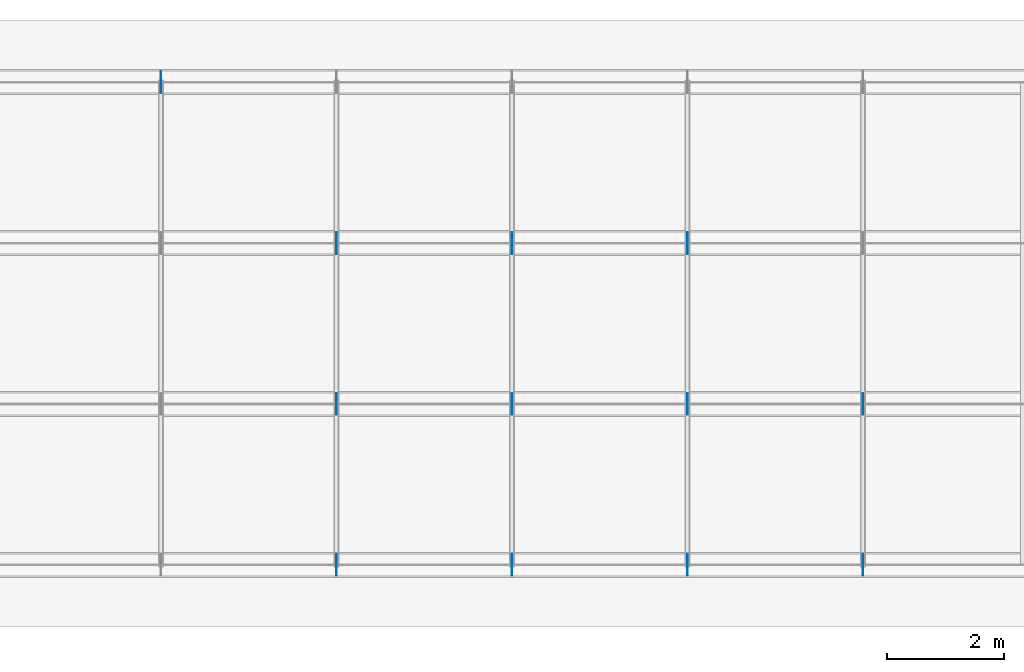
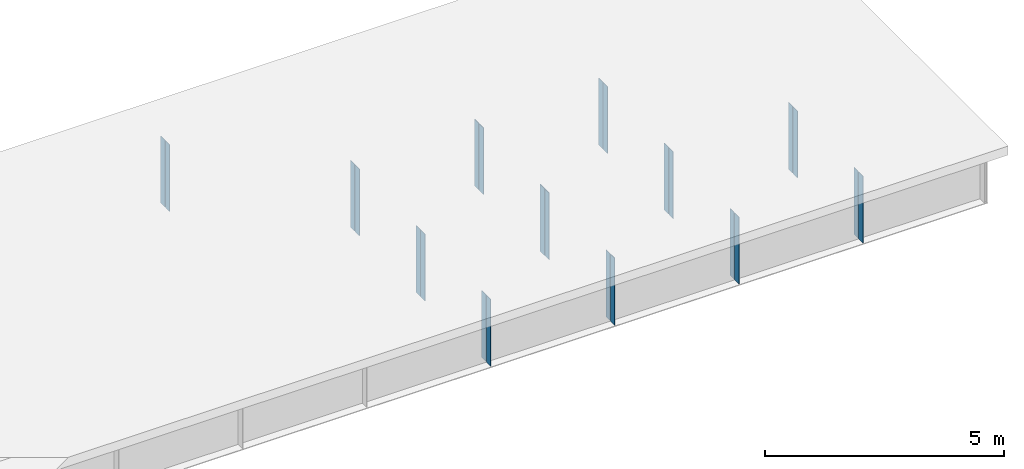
# One storey, part 10 of 11: 24 plates.
"""IFC4 building model written with IfcOpenShell, lengths in metres."""

from ifc_helpers import new_model, si_unit, frame, origin, origin_with_axes, origin_2d_with_axis, place, context, subcontext, project, spatial, rectangle, extrude, element, save


model = new_model("IFC4")

# Units and contexts
model_context = context("Model", 3, precision=1e-05, world=origin())
body_context = subcontext(model_context, "Body", "Model", "MODEL_VIEW")
ifc_project = project(units=[si_unit("LENGTHUNIT", "METRE"), si_unit("AREAUNIT", "SQUARE_METRE"), si_unit("VOLUMEUNIT", "CUBIC_METRE"), si_unit("PLANEANGLEUNIT", "RADIAN")], contexts=[model_context])

# Site, building, storey
site_placement = place(None, origin_with_axes())
site = spatial("IfcSite", under=ifc_project, at=site_placement, Name="Default Site")
building_placement = place(site_placement, origin_with_axes())
building = spatial("IfcBuilding", under=site, at=building_placement, Name="Bridge Structure")
storey_placement = place(building_placement, origin_with_axes())
storey = spatial("IfcBuildingStorey", under=building, at=storey_placement, Name="Superstructure")

# Plates
for number, where, z_axis, x_axis, name in (
    (1, (18.0, -4.02675, -0.855), (0.0, 0.0, 1.0), (1.0, 0.0, 0.0), "Intermediate Stiffener 1"),
    (2, (18.0, -4.22325, -0.855), (0.0, 0.0, 1.0), (1.0, 0.0, 0.0), "Intermediate Stiffener 1"),
    (3, (21.0, -4.02675, -0.855), (0.0, 0.0, 1.0), (1.0, 0.0, 0.0), "Intermediate Stiffener 1"),
    (4, (21.0, -4.22325, -0.855), (0.0, 0.0, 1.0), (1.0, 0.0, 0.0), "Intermediate Stiffener 1"),
    (5, (24.0, -4.02675, -0.855), (0.0, 0.0, 1.0), (1.0, 0.0, 0.0), "Intermediate Stiffener 1"),
    (6, (24.0, -4.22325, -0.855), (0.0, 0.0, 1.0), (1.0, 0.0, 0.0), "Intermediate Stiffener 1"),
    (7, (27.0, -4.02675, -0.855), (0.0, 0.0, 1.0), (1.0, 0.0, 0.0), "Intermediate Stiffener 1"),
    (8, (27.0, -4.22325, -0.855), (0.0, 0.0, 1.0), (1.0, 0.0, 0.0), "Intermediate Stiffener 1"),
    (9, (18.0, -1.27675, -0.855), (0.0, 0.0, 1.0), (1.0, 0.0, 0.0), "Intermediate Stiffener 2"),
    (10, (18.0, -1.47325, -0.855), (0.0, 0.0, 1.0), (1.0, 0.0, 0.0), "Intermediate Stiffener 2"),
    (11, (21.0, -1.27675, -0.855), (0.0, 0.0, 1.0), (1.0, 0.0, 0.0), "Intermediate Stiffener 2"),
    (12, (21.0, -1.47325, -0.855), (0.0, 0.0, 1.0), (1.0, 0.0, 0.0), "Intermediate Stiffener 2"),
    (13, (24.0, -1.27675, -0.855), (0.0, 0.0, 1.0), (1.0, 0.0, 0.0), "Intermediate Stiffener 2"),
    (14, (24.0, -1.47325, -0.855), (0.0, 0.0, 1.0), (1.0, 0.0, 0.0), "Intermediate Stiffener 2"),
    (15, (27.0, -1.27675, -0.855), (0.0, 0.0, 1.0), (1.0, 0.0, 0.0), "Intermediate Stiffener 2"),
    (16, (27.0, -1.47325, -0.855), (0.0, 0.0, 1.0), (1.0, 0.0, 0.0), "Intermediate Stiffener 2"),
    (17, (18.0, 1.47325, -0.855), (0.0, 0.0, 1.0), (1.0, 0.0, 0.0), "Intermediate Stiffener 3"),
    (18, (18.0, 1.27675, -0.855), (0.0, 0.0, 1.0), (1.0, 0.0, 0.0), "Intermediate Stiffener 3"),
    (19, (21.0, 1.47325, -0.855), (0.0, 0.0, 1.0), (1.0, 0.0, 0.0), "Intermediate Stiffener 3"),
    (20, (21.0, 1.27675, -0.855), (0.0, 0.0, 1.0), (1.0, 0.0, 0.0), "Intermediate Stiffener 3"),
    (21, (24.0, 1.47325, -0.855), (0.0, 0.0, 1.0), (1.0, 0.0, 0.0), "Intermediate Stiffener 3"),
    (22, (24.0, 1.27675, -0.855), (0.0, 0.0, 1.0), (1.0, 0.0, 0.0), "Intermediate Stiffener 3"),
    (23, (15.0, 4.22325, -0.855), (0.0, 0.0, 1.0), (1.0, 0.0, 0.0), "Intermediate Stiffener 4"),
    (24, (15.0, 4.02675, -0.855), (0.0, 0.0, 1.0), (1.0, 0.0, 0.0), "Intermediate Stiffener 4"),
):
    element("IfcPlate", number, at=place(storey_placement, frame(where, z_axis=z_axis, x_axis=x_axis)), inside=storey, Name=name, context=body_context, shape_type="SweptSolid", body=[
        extrude(rectangle(XDim=0.012, YDim=0.1785, at=origin_2d_with_axis()), origin_with_axes(), (0.0, 0.0, 1.0), 1.71),
    ])

save(model, "model.ifc")
